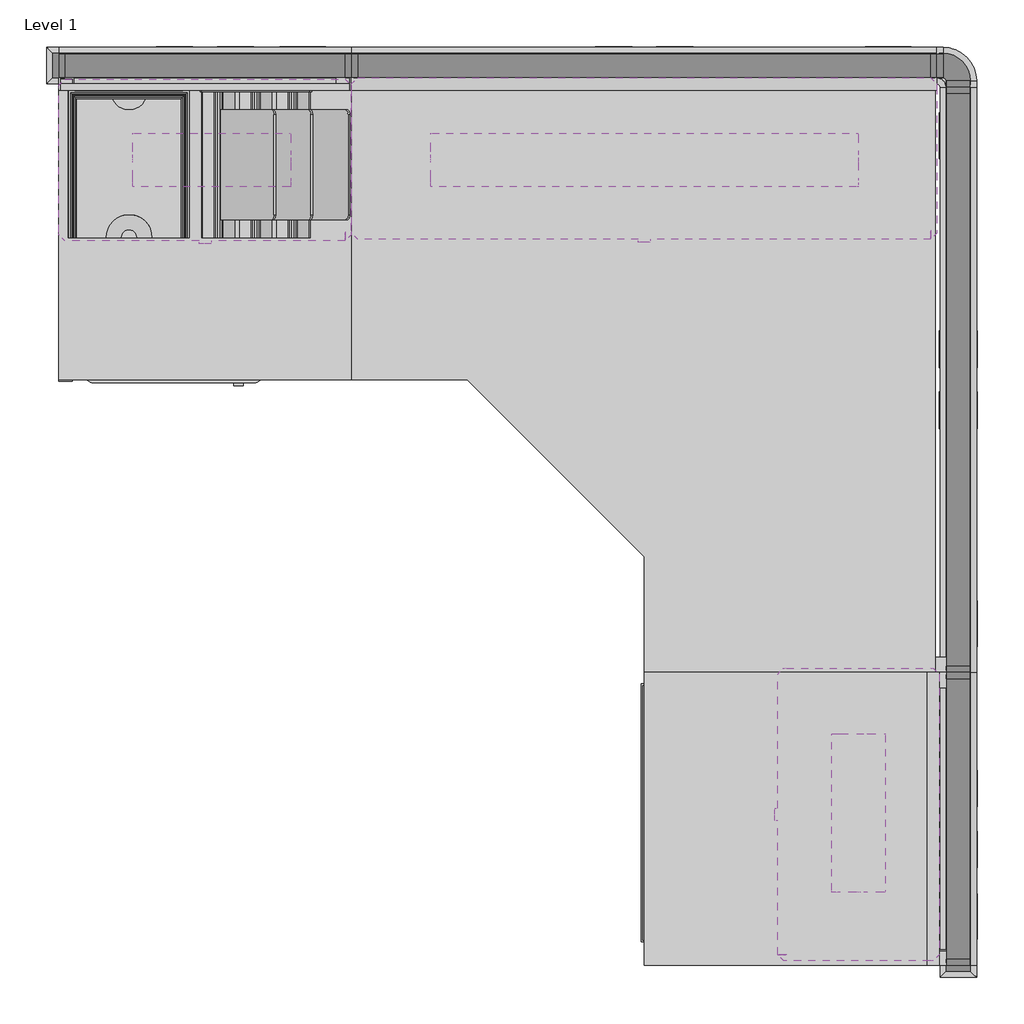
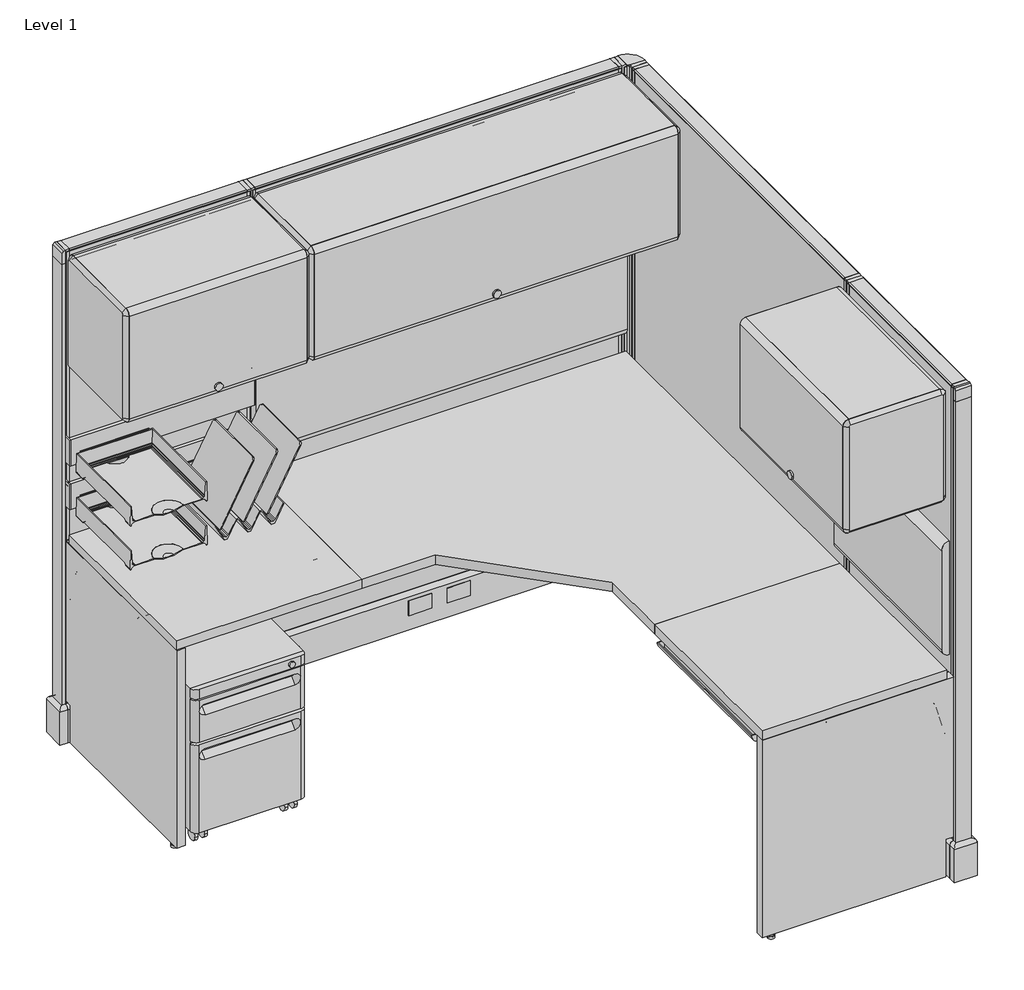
# One storey, incomplete: 24 furniture elements, 3 light fixtures.
"""IFC4 building model written with IfcOpenShell, lengths in millimetres."""

from ifc_helpers import new_model, si_unit, origin, place, context, project, spatial, transform, mapped, element, save
from components import furniture_d54c757f, furniture_75fc3fe0, furniture_a2665887, furniture_baef4f76, furniture_cb78dd66, furniture_061b7ed1, furniture_db9437f5, furniture_d4c6b201, furniture_6a59721d, furniture_2520e590, furniture_b123b550, furniture_6098a880, furniture_98713a82, furniture_f221023d, furniture_84c54a78, furniture_b7c7402d, furniture_5c2546f9, furniture_ba981915, light_fixture_5a12cc18, light_fixture_0c34e72c

model = new_model("IFC4")

# Units and contexts
model_context = context("Model", 3, world=origin())
ifc_project = project(units=[si_unit("LENGTHUNIT", "METRE", prefix="MILLI")], contexts=[model_context])

# Site, building, storey
site = spatial("IfcSite", under=ifc_project)
building = spatial("IfcBuilding", under=site)
storey = spatial("IfcBuildingStorey", under=building, Name="Level 1", Elevation=0.0)

# Furniture
placement = place(None, origin())
furniture_shape = furniture_d54c757f(model_context)
element("IfcFurniture", 1, ObjectType="HermanMiller_ThrivePortfolio_Y5010_PencilDrawer : 2\"H x 16\"D x 21\"W", at=placement, inside=storey, context=model_context, shape_type="MappedRepresentation", body=[
    mapped(furniture_shape, transform((1419.18944, -1590.30162, 0.0), x_axis=(0.0, -1.0, 0.0), y_axis=(1.0, 0.0, 0.0), z_axis=(0.0, 0.0, 1.0))),
])
furniture_2_shape = furniture_75fc3fe0(model_context)
element("IfcFurniture", 2, ObjectType="HermanMiller_ThrivePortfolio_Y7218_DiagonalTray : 8 1/2\"H x 12\"D x 13\"W", at=placement, inside=storey, context=model_context, shape_type="MappedRepresentation", body=[
    mapped(furniture_2_shape, transform((410.816817, -239.21212, 0.0), x_axis=(1.0, 0.0, 0.0), y_axis=(0.0, 1.0, 0.0), z_axis=(0.0, 0.0, 1.0))),
])
furniture_3_shape = furniture_a2665887(model_context)
element("IfcFurniture", 3, ObjectType="HermanMiller_ThrivePortfolio_Y7216_PaperTray : 3\"H x 12\"D x 10\"W", at=placement, inside=storey, context=model_context, shape_type="MappedRepresentation", body=[
    mapped(furniture_3_shape, transform((146.2024, -239.21212, 0.0), x_axis=(1.0, 0.0, 0.0), y_axis=(0.0, 1.0, 0.0), z_axis=(0.0, 0.0, 1.0))),
])
furniture_4_shape = furniture_baef4f76(model_context)
element("IfcFurniture", 4, ObjectType="HermanMiller_ThrivePortfolio_Y7216_PaperTray : 3\"H x 12\"D x 10\"W", at=placement, inside=storey, context=model_context, shape_type="MappedRepresentation", body=[
    mapped(furniture_4_shape, transform((146.2024, -239.21212, 0.0), x_axis=(1.0, 0.0, 0.0), y_axis=(0.0, 1.0, 0.0), z_axis=(0.0, 0.0, 1.0))),
])
furniture_5_shape = furniture_cb78dd66(model_context)
element("IfcFurniture", 5, ObjectType="HermanMiller_ActionOffice_A3410_B-StyleTackboard : 16\"H x 48\"W", at=placement, inside=storey, context=model_context, shape_type="MappedRepresentation", body=[
    mapped(furniture_5_shape, transform((1219.2, -72.4916, 0.0), x_axis=(1.0, 0.0, 0.0), y_axis=(0.0, 1.0, 0.0), z_axis=(0.0, 0.0, 1.0))),
])
furniture_6_shape = furniture_061b7ed1(model_context)
element("IfcFurniture", 6, ObjectType="HermanMiller_ActionOffice_A3410_B-StyleTackboard : 16\"H x 24\"W", at=placement, inside=storey, context=model_context, shape_type="MappedRepresentation", body=[
    mapped(furniture_6_shape, transform((1820.8625, -1602.8416, 0.0), x_axis=(0.0, -1.0, 0.0), y_axis=(1.0, 0.0, 0.0), z_axis=(0.0, 0.0, 1.0))),
])
furniture_7_shape = furniture_db9437f5(model_context)
element("IfcFurniture", 7, ObjectType="HermanMiller_ActionOffice_A2332_Sq-EdgeCornerWorkSurface : 24\"D x 48\"W", at=placement, inside=storey, context=model_context, shape_type="MappedRepresentation", body=[
    mapped(furniture_7_shape, transform((1063.625, -821.7916, 0.0), x_axis=(0.0, -1.0, 0.0), y_axis=(1.0, 0.0, 0.0), z_axis=(0.0, 0.0, 1.0))),
])
furniture_8_shape = furniture_d4c6b201(model_context)
element("IfcFurniture", 8, ObjectType="HermanMiller_ActionOffice_A2310_Sq-EdgeRectangularWorkSurface : 24\"D x 24\"W", at=placement, inside=storey, context=model_context, shape_type="MappedRepresentation", body=[
    mapped(furniture_8_shape, transform((1533.525, -1602.8416, 0.0), x_axis=(0.0, -1.0, 0.0), y_axis=(1.0, 0.0, 0.0), z_axis=(0.0, 0.0, 1.0))),
])
element("IfcFurniture", 9, ObjectType="HermanMiller_ActionOffice_A2310_Sq-EdgeRectangularWorkSurface : 24\"D x 24\"W", at=placement, inside=storey, context=model_context, shape_type="MappedRepresentation", body=[
    mapped(furniture_8_shape, transform((304.8, -374.1166, 0.0), x_axis=(1.0, 0.0, 0.0), y_axis=(0.0, 1.0, 0.0), z_axis=(0.0, 0.0, 1.0))),
])
furniture_9_shape = furniture_6a59721d(model_context)
element("IfcFurniture", 10, ObjectType="HermanMiller_ActionOffice_A3610_ToolBar : 4\"H x 24\"W", at=placement, inside=storey, context=model_context, shape_type="MappedRepresentation", body=[
    mapped(furniture_9_shape, transform((304.8, -72.4915996, 0.0), x_axis=(1.0, 0.0, 0.0), y_axis=(0.0, 1.0, 0.0), z_axis=(0.0, 0.0, 1.0))),
])
furniture_10_shape = furniture_2520e590(model_context)
element("IfcFurniture", 11, ObjectType="HermanMiller_ActionOffice_A3610_ToolBar : 4\"H x 24\"W", at=placement, inside=storey, context=model_context, shape_type="MappedRepresentation", body=[
    mapped(furniture_10_shape, transform((304.8, -72.4915996, 0.0), x_axis=(1.0, 0.0, 0.0), y_axis=(0.0, 1.0, 0.0), z_axis=(0.0, 0.0, 1.0))),
])
furniture_11_shape = furniture_b123b550(model_context)
element("IfcFurniture", 12, ObjectType="HermanMiller_ActionOffice_A3352_B-StyleFlipperDoorUnit : 15 1/2\"H x 13\"D x 24\"W", at=placement, inside=storey, context=model_context, shape_type="MappedRepresentation", body=[
    mapped(furniture_11_shape, transform((1652.5875, -1593.85, 0.0), x_axis=(0.0, -1.0, 0.0), y_axis=(1.0, 0.0, 0.0), z_axis=(0.0, 0.0, 1.0))),
])
element("IfcFurniture", 13, ObjectType="HermanMiller_ActionOffice_A3352_B-StyleFlipperDoorUnit : 15 1/2\"H x 13\"D x 24\"W", at=placement, inside=storey, context=model_context, shape_type="MappedRepresentation", body=[
    mapped(furniture_11_shape, transform((304.8, -243.9416, 0.0), x_axis=(1.0, 0.0, 0.0), y_axis=(0.0, 1.0, 0.0), z_axis=(0.0, 0.0, 1.0))),
])
furniture_12_shape = furniture_6098a880(model_context)
element("IfcFurniture", 14, ObjectType="HermanMiller_ActionOffice_A3352_B-StyleFlipperDoorUnit : 15 1/2\"H x 13\"D x 48\"W", at=placement, inside=storey, context=model_context, shape_type="MappedRepresentation", body=[
    mapped(furniture_12_shape, transform((1219.2, -240.7666, 0.0), x_axis=(1.0, 0.0, 0.0), y_axis=(0.0, 1.0, 0.0), z_axis=(0.0, 0.0, 1.0))),
])
furniture_13_shape = furniture_98713a82(model_context)
element("IfcFurniture", 15, ObjectType="HermanMiller_ActionOffice_A1110_Hard-SurfacedPanelStandardBase : 67\"H x 24\"W-G", at=placement, inside=storey, context=model_context, shape_type="MappedRepresentation", body=[
    mapped(furniture_13_shape, transform((1873.25, -1602.8416, 0.0), x_axis=(0.0, -1.0, 0.0), y_axis=(1.0, 0.0, 0.0), z_axis=(0.0, 0.0, 1.0))),
])
element("IfcFurniture", 16, ObjectType="HermanMiller_ActionOffice_A1110_Hard-SurfacedPanelStandardBase : 67\"H x 24\"W-G", at=placement, inside=storey, context=model_context, shape_type="MappedRepresentation", body=[
    mapped(furniture_13_shape, transform((304.8, -34.3916, 0.0), x_axis=(1.0, 0.0, 0.0), y_axis=(0.0, 1.0, 0.0), z_axis=(0.0, 0.0, 1.0))),
])
furniture_14_shape = furniture_f221023d(model_context)
element("IfcFurniture", 17, ObjectType="HermanMiller_ActionOffice_A1110_Hard-SurfacedPanelStandardBase : 67\"H x 48\"W-G", at=placement, inside=storey, context=model_context, shape_type="MappedRepresentation", body=[
    mapped(furniture_14_shape, transform((1873.25, -688.4416, 0.0), x_axis=(0.0, -1.0, 0.0), y_axis=(1.0, 0.0, 0.0), z_axis=(0.0, 0.0, 1.0))),
])
element("IfcFurniture", 18, ObjectType="HermanMiller_ActionOffice_A1110_Hard-SurfacedPanelStandardBase : 67\"H x 48\"W-G", at=placement, inside=storey, context=model_context, shape_type="MappedRepresentation", body=[
    mapped(furniture_14_shape, transform((1219.2, -34.3916, 0.0), x_axis=(1.0, 0.0, 0.0), y_axis=(0.0, 1.0, 0.0), z_axis=(0.0, 0.0, 1.0))),
])
furniture_15_shape = furniture_84c54a78(model_context)
element("IfcFurniture", 19, ObjectType="HermanMiller_QuadrantFiling_G5111_MobilePedestal : 21-1/2\"H x 20\"D x 15\"W BF", at=placement, inside=storey, context=model_context, shape_type="MappedRepresentation", body=[
    mapped(furniture_15_shape, transform((239.44326, -431.124363, 0.0), x_axis=(1.0, 0.0, 0.0), y_axis=(0.0, 1.0, 0.0), z_axis=(0.0, 0.0, 1.0))),
])
furniture_16_shape = furniture_b7c7402d(model_context)
element("IfcFurniture", 20, ObjectType="HermanMiller_ActionOffice_A2380_WorkSuraceSupportPanelEnd : 24\"D", at=placement, inside=storey, context=model_context, shape_type="MappedRepresentation", body=[
    mapped(furniture_16_shape, transform((1219.2, -1879.0666, 0.0), x_axis=(0.0, -1.0, 0.0), y_axis=(1.0, 0.0, 0.0), z_axis=(0.0, 0.0, 1.0))),
])
element("IfcFurniture", 21, ObjectType="HermanMiller_ActionOffice_A2380_WorkSuraceSupportPanelEnd : 24\"D", at=placement, inside=storey, context=model_context, shape_type="MappedRepresentation", body=[
    mapped(furniture_16_shape, transform((0.0, -691.6166, 0.0), x_axis=(1.0, 0.0, 0.0), y_axis=(0.0, 1.0, 0.0), z_axis=(0.0, 0.0, 1.0))),
])
furniture_17_shape = furniture_5c2546f9(model_context)
element("IfcFurniture", 22, ObjectType="HermanMiller_ActionOffice_A1271_FinishedEndStandardBase : 67\"H", at=placement, inside=storey, context=model_context, shape_type="MappedRepresentation", body=[
    mapped(furniture_17_shape, transform((4321.9887877, 77.2144512, 0.0), x_axis=(0.0, -1.0, 0.0), y_axis=(1.0, 0.0, 0.0), z_axis=(0.0, 0.0, 1.0))),
])
element("IfcFurniture", 23, ObjectType="HermanMiller_ActionOffice_A1271_FinishedEndStandardBase : 67\"H", at=placement, inside=storey, context=model_context, shape_type="MappedRepresentation", body=[
    mapped(furniture_17_shape, transform((1984.8560512, -2483.1303877, 0.0), x_axis=(-1.0, 0.0, 0.0), y_axis=(0.0, -1.0, 0.0), z_axis=(0.0, 0.0, 1.0))),
])
furniture_18_shape = furniture_ba981915(model_context)
element("IfcFurniture", 24, ObjectType="HermanMiller_ActionOffice_A1220_90ConnectorStandardBase : 67\"H 2-Way-Hard", at=placement, inside=storey, context=model_context, shape_type="MappedRepresentation", body=[
    mapped(furniture_18_shape, transform((1866.9, -48.9055414, 0.0), x_axis=(1.0, 0.0, 0.0), y_axis=(0.0, 1.0, 0.0), z_axis=(0.0, 0.0, 1.0))),
])

# Light fixtures
light_fixture_shape = light_fixture_5a12cc18(model_context)
element("IfcLightFixture", 25, ObjectType="HermanMiller_SupplementalProducts_G6136_UtilityTaskLight : AO Etho Canvas 42W", at=placement, inside=storey, context=model_context, shape_type="MappedRepresentation", body=[
    mapped(light_fixture_shape, transform((1219.2, -231.2416, 0.0), x_axis=(1.0, 0.0, 0.0), y_axis=(0.0, 1.0, 0.0), z_axis=(0.0, 0.0, 1.0))),
])
light_fixture_2_shape = light_fixture_0c34e72c(model_context)
element("IfcLightFixture", 26, ObjectType="HermanMiller_SupplementalProducts_G6136_UtilityTaskLight : AO Etho Canvas 24W", at=placement, inside=storey, context=model_context, shape_type="MappedRepresentation", body=[
    mapped(light_fixture_2_shape, transform((1665.2875, -1590.30162, 0.0), x_axis=(0.0, -1.0, 0.0), y_axis=(1.0, 0.0, 0.0), z_axis=(0.0, 0.0, 1.0))),
])
element("IfcLightFixture", 27, ObjectType="HermanMiller_SupplementalProducts_G6136_UtilityTaskLight : AO Etho Canvas 24W", at=placement, inside=storey, context=model_context, shape_type="MappedRepresentation", body=[
    mapped(light_fixture_2_shape, transform((318.4223245, -231.2416, 0.0), x_axis=(1.0, 0.0, 0.0), y_axis=(0.0, 1.0, 0.0), z_axis=(0.0, 0.0, 1.0))),
])

save(model, "model.ifc")
